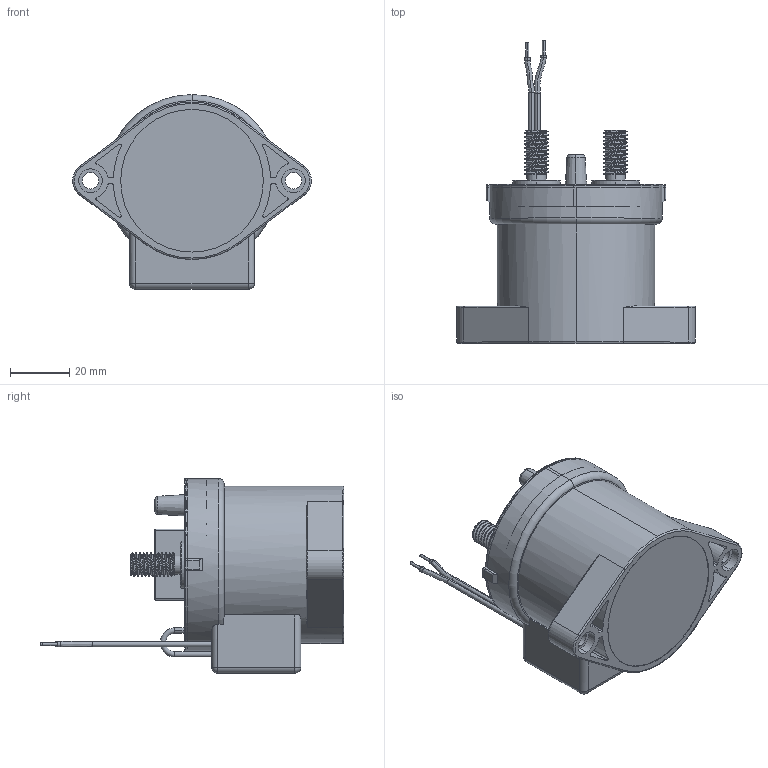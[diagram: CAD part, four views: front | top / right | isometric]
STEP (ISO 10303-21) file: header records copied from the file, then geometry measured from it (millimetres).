
FILE_DESCRIPTION((''),'2;1');
FILE_NAME('PRT0002','2024-05-22T11:52:44',('pc'),(''),'CREO PARAMETRIC BY PTC INC, 2018100','CREO PARAMETRIC BY PTC INC, 2018100','');
FILE_SCHEMA(('CONFIG_CONTROL_DESIGN'));
Length unit declared in the file: millimetre
Products named in the file (1): PRT0002
Bounding box: 80.26 x 102.07 x 65.56 mm (x, y, z)
Surface area: 48086.1 mm2 (no closed solid volume)
Topology: 0 solids, 13 shells, 610 faces, 1541 edges, 991 vertices
Faces by surface type: cylinder 262, plane 239, torus 54, cone 27, bspline 14, sphere 8, extrusion 6
Entity records: 31723 total; most frequent: CARTESIAN_POINT 16885, DIRECTION 3140, ORIENTED_EDGE 3066, EDGE_CURVE 1533, AXIS2_PLACEMENT_3D 1193, VERTEX_POINT 991, VECTOR 754, LINE 748
